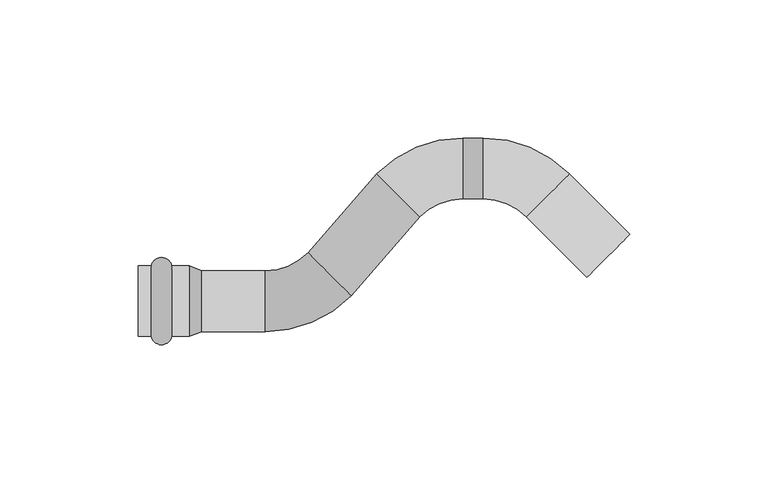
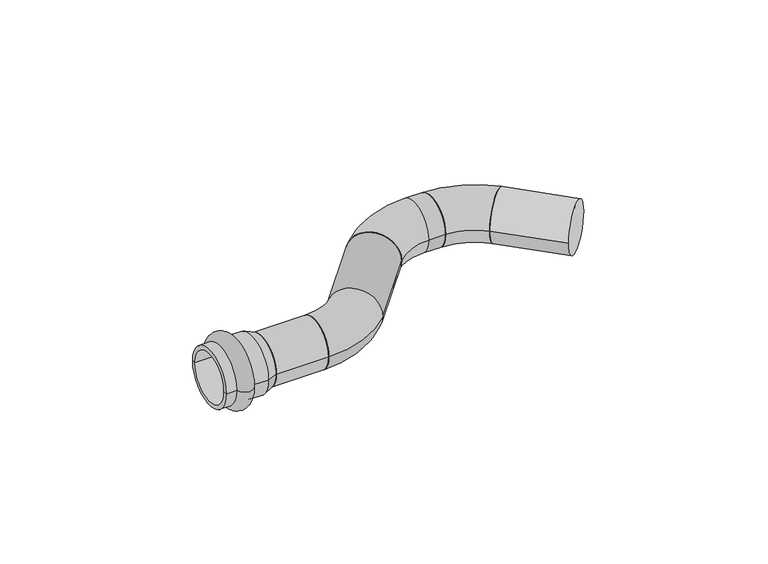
"""IFC4 building model written with IfcOpenShell, lengths in millimetres: pipe fitting geometry, VALTEC_VTi.970.I_Обвод раструб_труба_нержавеющая : VTi.970.I."""

from ifc_helpers import new_model, si_unit, point, frame, frame_2d, origin, origin_2d, place, context, project, spatial, polyline, circle_curve, ellipse_curve, trimmed, segment, composite_curve, outline, extrude, source, transform, mapped, element, save
from ifc_brep_helpers import plane_surface, cylinder_surface, revolved_surface, spline_surface, advanced_brep


def pipe_fitting_2d567ee6(model_context):
    return source(origin(), model_context, "Body", "SolidModel", [
        advanced_brep(
        [(117.4854251, 59.0, 0.0), (117.4854251, 37.0, 0.0), (86.3727267, 46.1126984, 0.0), (101.9290759, 30.5563492, 0.0)],
        [
            (0, 1, circle_curve(frame((117.4854251, 48.0, 0.0), z_axis=(1.0, 0.0, 0.0), x_axis=(0.0, -1.0, 0.0)), 11.0)),
            (1, 0, circle_curve(frame((117.4854251, 48.0, 0.0), z_axis=(1.0, 0.0, 0.0), x_axis=(0.0, -1.0, 0.0)), 11.0)),
            (2, 3, circle_curve(frame((94.1509013, 38.3345238, 0.0), z_axis=(-0.7071067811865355, -0.7071067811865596, 0.0), x_axis=(0.7071067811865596, -0.7071067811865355, 0.0)), 11.0)),
            (3, 2, circle_curve(frame((94.1509013, 38.3345238, 0.0), z_axis=(-0.7071067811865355, -0.7071067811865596, 0.0), x_axis=(0.7071067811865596, -0.7071067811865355, 0.0)), 11.0)),
            (3, 1, circle_curve(frame((117.4854251, 15.0, 0.0), z_axis=(0.0, 0.0, -1.0), x_axis=(0.0, 1.0, 0.0)), 22.0)),
            (0, 2, circle_curve(frame((117.4854251, 15.0, 0.0), z_axis=(0.0, 0.0, 1.0), x_axis=(0.0, 1.0, 0.0)), 44.0)),
        ],
        [
            plane_surface(frame((117.4854251, 48.0, 0.0), z_axis=(1.0, 0.0, 0.0), x_axis=(0.0, 0.0, 1.0))),
            plane_surface(frame((94.1509013, 38.3345238, 0.0), z_axis=(-0.7071067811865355, -0.7071067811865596, 0.0), x_axis=(0.0, 0.0, 1.0))),
            revolved_surface(trimmed(ellipse_curve(frame((117.4854251, 48.0, 0.0), z_axis=(1.0, 0.0, 0.0), x_axis=(0.0, -1.0, 0.0)), 11.0, 11.0), [point((117.4854251, 59.0, 0.0))], [point((117.4854251, 37.0, 0.0))], True, "CARTESIAN"), (117.4854251, 15.0, 0.0), (0.0, 0.0, 1.0)),
            revolved_surface(trimmed(ellipse_curve(frame((117.4854251, 48.0, 0.0), z_axis=(1.0, 0.0, 0.0), x_axis=(0.0, -1.0, 0.0)), 11.0, 11.0), [point((117.4854251, 37.0, 0.0))], [point((117.4854251, 59.0, 0.0))], True, "CARTESIAN"), (117.4854251, 15.0, 0.0), (0.0, 0.0, 1.0)),
        ],
        [
            (0, [[1, 2]]),
            (1, [[3, 4]]),
            (2, [[5, -1, 6, -4]]),
            (3, [[-6, -2, -5, -3]]),
        ],
    ),
        advanced_brep(
        [(124.9854251, 59.0, 0.0), (124.9854251, 37.0, 0.0), (156.0981234, 46.1126984, 0.0), (140.5417742, 30.5563492, 0.0)],
        [
            (0, 1, circle_curve(frame((124.9854251, 48.0, 0.0), z_axis=(-1.0, 0.0, 0.0), x_axis=(0.0, -1.0, 0.0)), 11.0)),
            (1, 0, circle_curve(frame((124.9854251, 48.0, 0.0), z_axis=(-1.0, 0.0, 0.0), x_axis=(0.0, -1.0, 0.0)), 11.0)),
            (2, 3, circle_curve(frame((148.3199488, 38.3345238, 0.0), z_axis=(0.7071067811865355, -0.7071067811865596, 0.0), x_axis=(-0.7071067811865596, -0.7071067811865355, 0.0)), 11.0)),
            (3, 2, circle_curve(frame((148.3199488, 38.3345238, 0.0), z_axis=(0.7071067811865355, -0.7071067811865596, 0.0), x_axis=(-0.7071067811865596, -0.7071067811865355, 0.0)), 11.0)),
            (2, 0, circle_curve(frame((124.9854251, 15.0, 0.0), z_axis=(0.0, 0.0, 1.0), x_axis=(0.0, 1.0, 0.0)), 44.0)),
            (1, 3, circle_curve(frame((124.9854251, 15.0, 0.0), z_axis=(0.0, 0.0, -1.0), x_axis=(0.0, 1.0, 0.0)), 22.0)),
        ],
        [
            plane_surface(frame((124.9854251, 48.0, 0.0), z_axis=(-1.0, 0.0, 0.0), x_axis=(0.0, 0.0, 1.0))),
            plane_surface(frame((148.3199488, 38.3345238, 0.0), z_axis=(0.7071067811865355, -0.7071067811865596, 0.0), x_axis=(0.0, 0.0, 1.0))),
            revolved_surface(trimmed(ellipse_curve(frame((124.9854251, 48.0, 0.0), z_axis=(1.0, 0.0, 0.0), x_axis=(0.0, -1.0, 0.0)), 11.0, 11.0), [point((124.9854251, 59.0, 0.0))], [point((124.9854251, 37.0, 0.0))], True, "CARTESIAN"), (124.9854251, 15.0, 0.0), (0.0, 0.0, 1.0)),
            revolved_surface(trimmed(ellipse_curve(frame((124.9854251, 48.0, 0.0), z_axis=(1.0, 0.0, 0.0), x_axis=(0.0, -1.0, 0.0)), 11.0, 11.0), [point((124.9854251, 37.0, 0.0))], [point((124.9854251, 59.0, 0.0))], True, "CARTESIAN"), (124.9854251, 15.0, 0.0), (0.0, 0.0, 1.0)),
        ],
        [
            (0, [[1, 2]]),
            (1, [[3, 4]]),
            (2, [[-3, 5, -2, 6]]),
            (3, [[-4, -6, -1, -5]]),
        ],
    ),
        advanced_brep(
        [(46.0, -11.0, 0.0), (46.0, 11.0, 0.0), (77.1126984, 1.8873016, 0.0), (61.5563492, 17.4436508, 0.0)],
        [
            (0, 1, circle_curve(frame((46.0, 0.0, 0.0), z_axis=(-1.0, 0.0, 0.0), x_axis=(0.0, 1.0, 0.0)), 11.0)),
            (1, 0, circle_curve(frame((46.0, 0.0, 0.0), z_axis=(-1.0, 0.0, 0.0), x_axis=(0.0, 1.0, 0.0)), 11.0)),
            (2, 3, circle_curve(frame((69.3345238, 9.6654762, 0.0), z_axis=(0.70710678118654, 0.707106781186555, 0.0), x_axis=(-0.707106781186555, 0.70710678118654, 0.0)), 11.0)),
            (3, 2, circle_curve(frame((69.3345238, 9.6654762, 0.0), z_axis=(0.70710678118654, 0.707106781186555, 0.0), x_axis=(-0.707106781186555, 0.70710678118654, 0.0)), 11.0)),
            (3, 1, circle_curve(frame((46.0, 33.0, 0.0), z_axis=(0.0, 0.0, -1.0), x_axis=(0.0, -1.0, 0.0)), 22.0)),
            (0, 2, circle_curve(frame((46.0, 33.0, 0.0), z_axis=(0.0, 0.0, 1.0), x_axis=(0.0, -1.0, 0.0)), 44.0)),
        ],
        [
            plane_surface(frame((46.0, 0.0, 0.0), z_axis=(-1.0, 0.0, 0.0), x_axis=(0.0, 0.0, 1.0))),
            plane_surface(frame((69.3345238, 9.6654762, 0.0), z_axis=(0.70710678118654, 0.707106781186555, 0.0), x_axis=(0.0, 0.0, 1.0))),
            revolved_surface(trimmed(ellipse_curve(frame((46.0, 0.0, 0.0), z_axis=(-1.0, 0.0, 0.0), x_axis=(0.0, 1.0, 0.0)), 11.0, 11.0), [point((46.0, -11.0, 0.0))], [point((46.0, 11.0, 0.0))], True, "CARTESIAN"), (46.0, 33.0, 0.0), (0.0, 0.0, 1.0)),
            revolved_surface(trimmed(ellipse_curve(frame((46.0, 0.0, 0.0), z_axis=(-1.0, 0.0, 0.0), x_axis=(0.0, 1.0, 0.0)), 11.0, 11.0), [point((46.0, 11.0, 0.0))], [point((46.0, -11.0, 0.0))], True, "CARTESIAN"), (46.0, 33.0, 0.0), (0.0, 0.0, 1.0)),
        ],
        [
            (0, [[1, 2]]),
            (1, [[3, 4]]),
            (2, [[5, -1, 6, -4]]),
            (3, [[-6, -2, -5, -3]]),
        ],
    ),
        advanced_brep(
        [(12.1242346, 12.8, 0.0), (12.1242346, -12.8, 0.0), (4.7757654, -12.8, 0.0), (4.7757654, 12.8, 0.0), (18.5, 12.8, 0.0), (18.5, -12.8, 0.0), (18.5, 11.0, 0.0), (18.5, -11.0, 0.0), (0.0, 11.0, 0.0), (0.0, -11.0, 0.0), (0.0, 12.8, 0.0), (0.0, -12.8, 0.0)],
        [
            (0, 1, circle_curve(frame((12.1242346, 0.0, 0.0), z_axis=(-1.0, 0.0, 0.0), x_axis=(0.0, -1.0, 0.0)), 12.8)),
            (1, 2, circle_curve(frame((8.45, -12.05, 0.0), z_axis=(0.0, 0.0, -1.0), x_axis=(-1.0, 0.0, 0.0)), 3.75)),
            (2, 3, circle_curve(frame((4.7757654, 0.0, 0.0), z_axis=(1.0, 0.0, 0.0), x_axis=(0.0, -1.0, 0.0)), 12.8)),
            (3, 0, circle_curve(frame((8.45, 12.05, 0.0), z_axis=(0.0, 0.0, -1.0), x_axis=(-1.0, 0.0, 0.0)), 3.75)),
            (1, 0, circle_curve(frame((12.1242346, 0.0, 0.0), z_axis=(-1.0, 0.0, 0.0), x_axis=(0.0, -1.0, 0.0)), 12.8)),
            (3, 2, circle_curve(frame((4.7757654, 0.0, 0.0), z_axis=(1.0, 0.0, 0.0), x_axis=(0.0, -1.0, 0.0)), 12.8)),
            (4, 5, circle_curve(frame((18.5, 0.0, 0.0), z_axis=(-1.0, 0.0, 0.0), x_axis=(0.0, -1.0, 0.0)), 12.8)),
            (5, 1),
            (0, 4),
            (5, 4, circle_curve(frame((18.5, 0.0, 0.0), z_axis=(-1.0, 0.0, 0.0), x_axis=(0.0, -1.0, 0.0)), 12.8)),
            (6, 7, circle_curve(frame((18.5, 0.0, 0.0), z_axis=(-1.0, 0.0, 0.0), x_axis=(0.0, -1.0, 0.0)), 11.0)),
            (7, 5),
            (4, 6),
            (7, 6, circle_curve(frame((18.5, 0.0, 0.0), z_axis=(-1.0, 0.0, 0.0), x_axis=(0.0, -1.0, 0.0)), 11.0)),
            (8, 9, circle_curve(frame((0.0, 0.0, 0.0), z_axis=(-1.0, 0.0, 0.0), x_axis=(0.0, -1.0, 0.0)), 11.0)),
            (9, 7),
            (6, 8),
            (9, 8, circle_curve(frame((0.0, 0.0, 0.0), z_axis=(-1.0, 0.0, 0.0), x_axis=(0.0, -1.0, 0.0)), 11.0)),
            (10, 11, circle_curve(frame((0.0, 0.0, 0.0), z_axis=(-1.0, 0.0, 0.0), x_axis=(0.0, -1.0, 0.0)), 12.8)),
            (11, 9),
            (8, 10),
            (11, 10, circle_curve(frame((0.0, 0.0, 0.0), z_axis=(-1.0, 0.0, 0.0), x_axis=(0.0, -1.0, 0.0)), 12.8)),
            (2, 11),
            (10, 3),
        ],
        [
            revolved_surface(trimmed(ellipse_curve(frame((8.45, -12.05, 0.0), z_axis=(0.0, 0.0, 1.0), x_axis=(-1.0, 0.0, 0.0)), 3.75, 3.75), [point((4.7757654, -12.8, 0.0))], [point((12.1242346, -12.8, 0.0))], True, "CARTESIAN"), (22.0364426, 0.0, 0.0), (1.0, 0.0, 0.0)),
            cylinder_surface(frame((22.0364426, 0.0, 0.0), z_axis=(1.0, 0.0, 0.0), x_axis=(0.0, -1.0, 0.0)), 12.8),
            plane_surface(frame((18.5, 0.0, 0.0), z_axis=(1.0, 0.0, 0.0), x_axis=(0.0, -1.0, 0.0))),
            revolved_surface(polyline([(18.5, -11.0, 0.0), (0.0, -11.0, 0.0)]), (22.0364426, 0.0, 0.0), (1.0, 0.0, 0.0)),
            plane_surface(frame((0.0, 0.0, 0.0), z_axis=(-1.0, 0.0, 0.0), x_axis=(0.0, -1.0, 0.0))),
        ],
        [
            (0, [[1, 2, 3, 4]]),
            (0, [[5, -4, 6, -2]]),
            (1, [[7, 8, -1, 9]]),
            (1, [[10, -9, -5, -8]]),
            (2, [[11, 12, -7, 13]]),
            (2, [[14, -13, -10, -12]]),
            (3, [[15, 16, -11, 17]]),
            (3, [[18, -17, -14, -16]]),
            (4, [[19, 20, -15, 21]]),
            (4, [[22, -21, -18, -20]]),
            (1, [[-3, 23, -19, 24]]),
            (1, [[-6, -24, -22, -23]]),
        ],
    ),
        extrude(outline(composite_curve([segment(trimmed(circle_curve(origin_2d(), 11.0), [point((0.0, 11.0))], [point((0.0, -11.0))], False, "CARTESIAN"), True, "CONTINUOUS"), segment(trimmed(circle_curve(origin_2d(), 11.0), [point((0.0, -11.0))], [point((0.0, 11.0))], False, "CARTESIAN"), True, "CONTINUOUS")], self_intersect=False)), frame((170.2218254, 16.4326472, 0.0), z_axis=(-0.7071067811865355, 0.7071067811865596, 0.0), x_axis=(0.0, 0.0, -1.0)), (0.0, 0.0, 1.0), 30.9739309),
        extrude(outline(composite_curve([segment(trimmed(circle_curve(frame_2d((48.0, 0.0)), 11.0), [point((59.0, 0.0))], [point((37.0, 0.0))], False, "CARTESIAN"), True, "CONTINUOUS"), segment(trimmed(circle_curve(frame_2d((48.0, 0.0)), 11.0), [point((37.0, 0.0))], [point((59.0, 0.0))], False, "CARTESIAN"), True, "CONTINUOUS")], self_intersect=False)), frame((117.4854251, 0.0, 0.0), z_axis=(1.0, 0.0, 0.0), x_axis=(0.0, 1.0, 0.0)), (0.0, 0.0, 1.0), 7.5),
        advanced_brep(
        [(101.9290759, 30.5563492, 0.0), (86.3727267, 46.1126984, 0.0), (77.1126984, 1.8873016, 0.0), (61.5563492, 17.4436508, 0.0)],
        [
            (0, 1, circle_curve(frame((94.1509013, 38.3345238, 0.0), z_axis=(0.7071067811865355, 0.7071067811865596, 0.0), x_axis=(0.0, 0.0, 1.0)), 11.0)),
            (1, 0, circle_curve(frame((94.1509013, 38.3345238, 0.0), z_axis=(0.7071067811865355, 0.7071067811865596, 0.0), x_axis=(0.0, 0.0, 1.0)), 11.0)),
            (2, 3, circle_curve(frame((69.3345238, 9.6654762, 0.0), z_axis=(-0.70710678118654, -0.707106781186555, 0.0), x_axis=(0.0, 0.0, 1.0)), 11.0)),
            (3, 2, circle_curve(frame((69.3345238, 9.6654762, 0.0), z_axis=(-0.70710678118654, -0.707106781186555, 0.0), x_axis=(0.0, 0.0, 1.0)), 11.0)),
            (3, 1),
            (0, 2),
        ],
        [
            plane_surface(frame((94.1509013, 38.3345238, 0.0), z_axis=(0.7071067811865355, 0.7071067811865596, 0.0), x_axis=(0.0, 0.0, 1.0))),
            plane_surface(frame((69.3345238, 9.6654762, 0.0), z_axis=(-0.7071067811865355, -0.7071067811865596, 0.0), x_axis=(0.0, 0.0, 1.0))),
            spline_surface(2, 1, [[(77.1126984, 1.8873016, 0.0), (101.9290759, 30.5563492, 0.0)], [(77.1126984, 1.8873015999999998, -11.000000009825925), (101.9290759, 30.5563492, -11.000000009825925)], [(69.3345238, 9.6654762, -11.000000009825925), (94.1509013, 38.3345238, -11.000000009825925)], [(61.5563492, 17.4436508, -11.000000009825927), (86.3727267, 46.1126984, -11.000000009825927)], [(61.5563492, 17.4436508, 0.0), (86.3727267, 46.1126984, 0.0)]], [3, 2, 3], [2, 2], [0.0, 1.0, 2.0], [0.0, 1.0], weights=[[1.0, 1.0], [0.7071067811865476, 0.7071067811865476], [1.0, 1.0], [0.7071067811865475, 0.7071067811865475], [1.0, 1.0]]),
            spline_surface(2, 1, [[(61.5563492, 17.4436508, 0.0), (86.3727267, 46.1126984, 0.0)], [(61.5563492, 17.4436508, 11.000000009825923), (86.3727267, 46.1126984, 11.000000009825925)], [(69.3345238, 9.6654762, 11.000000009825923), (94.1509013, 38.3345238, 11.000000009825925)], [(77.1126984, 1.8873016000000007, 11.000000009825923), (101.9290759, 30.5563492, 11.000000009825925)], [(77.1126984, 1.8873016, 0.0), (101.9290759, 30.5563492, 0.0)]], [3, 2, 3], [2, 2], [0.0, 1.0, 2.0], [0.0, 1.0], weights=[[1.0, 1.0], [0.7071067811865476, 0.7071067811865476], [1.0, 1.0], [0.7071067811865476, 0.7071067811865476], [1.0, 1.0]]),
        ],
        [
            (0, [[1, 2]]),
            (1, [[3, 4]]),
            (2, [[-4, 5, -1, 6]]),
            (3, [[-3, -6, -2, -5]]),
        ],
    ),
        extrude(outline(composite_curve([segment(trimmed(circle_curve(origin_2d(), 11.0), [point((11.0, 0.0))], [point((-11.0, 0.0))], False, "CARTESIAN"), True, "CONTINUOUS"), segment(trimmed(circle_curve(origin_2d(), 11.0), [point((-11.0, 0.0))], [point((11.0, 0.0))], False, "CARTESIAN"), True, "CONTINUOUS")], self_intersect=False)), frame((23.0, 0.0, 0.0), z_axis=(1.0, 0.0, 0.0), x_axis=(0.0, 1.0, 0.0)), (0.0, 0.0, 1.0), 23.0),
        advanced_brep(
        [(23.0, -11.0, 0.0), (23.0, 11.0, 0.0), (18.5, -12.8, 0.0), (18.5, 12.8, 0.0)],
        [
            (0, 1, circle_curve(frame((23.0, 0.0, 0.0), z_axis=(1.0, 0.0, 0.0), x_axis=(0.0, -1.0, 0.0)), 11.0)),
            (1, 0, circle_curve(frame((23.0, 0.0, 0.0), z_axis=(1.0, 0.0, 0.0), x_axis=(0.0, 1.0, 0.0)), 11.0)),
            (2, 3, circle_curve(frame((18.5, 0.0, 0.0), z_axis=(-1.0, 0.0, 0.0), x_axis=(0.0, 1.0, 0.0)), 12.8)),
            (3, 2, circle_curve(frame((18.5, 0.0, 0.0), z_axis=(-1.0, 0.0, 0.0), x_axis=(0.0, -1.0, 0.0)), 12.8)),
            (3, 1),
            (0, 2),
        ],
        [
            plane_surface(frame((23.0, 0.0, 0.0), z_axis=(1.0, 0.0, 0.0), x_axis=(0.0, 0.0, -1.0))),
            plane_surface(frame((18.5, 0.0, 0.0), z_axis=(-1.0, 0.0, 0.0), x_axis=(0.0, 0.0, -1.0))),
            revolved_surface(polyline([(23.0, -11.0, 0.0), (18.5, -12.8, 0.0)]), (50.5, 0.0, 0.0), (-1.0, 0.0, 0.0)),
            revolved_surface(polyline([(23.0, 11.0, 0.0), (18.5, 12.8, 0.0)]), (50.5, 0.0, 0.0), (-1.0, 0.0, 0.0)),
        ],
        [
            (0, [[1, 2]]),
            (1, [[3, 4]]),
            (2, [[-4, 5, -1, 6]]),
            (3, [[-3, -6, -2, -5]]),
        ],
    ),
    ])


if __name__ == "__main__":
    model = new_model("IFC4")
    model_context = context("Model", 3, world=origin())
    ifc_project = project(units=[si_unit("LENGTHUNIT", "METRE", prefix="MILLI")], contexts=[model_context])
    site = spatial("IfcSite", under=ifc_project)
    building = spatial("IfcBuilding", under=site)
    placement = place(None, origin())
    pipe_fitting_shape = pipe_fitting_2d567ee6(model_context)
    element("IfcPipeFitting", 1, ObjectType="VALTEC_VTi.970.I_Обвод раструб_труба_нержавеющая : VTi.970.I", at=placement, inside=building, context=model_context, shape_type="MappedRepresentation", body=[
        mapped(pipe_fitting_shape, transform((0.0, 0.0, 0.0), x_axis=(1.0, 0.0, 0.0), y_axis=(0.0, 1.0, 0.0), z_axis=(0.0, 0.0, 1.0))),
    ])
    save(model, "model.ifc")
